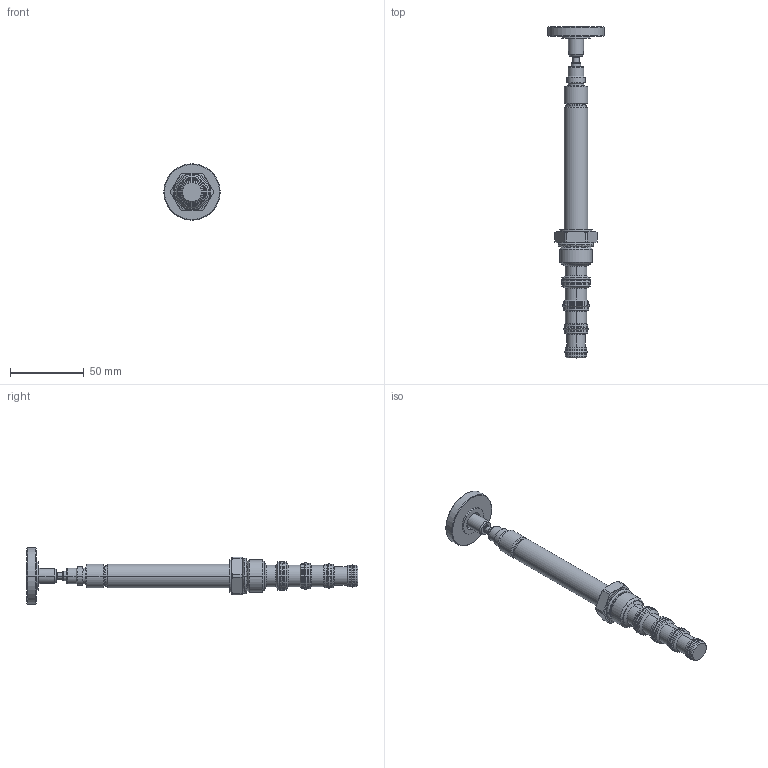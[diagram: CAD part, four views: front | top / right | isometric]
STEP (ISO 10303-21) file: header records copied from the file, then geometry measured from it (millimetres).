
FILE_DESCRIPTION((''),'2;1');
FILE_NAME('5039050_SW0007','2009-02-27T',('JCS'),(''),'PRO/ENGINEER BY PARAMETRIC TECHNOLOGY CORPORATION, 2008010','PRO/ENGINEER BY PARAMETRIC TECHNOLOGY CORPORATION, 2008010','');
FILE_SCHEMA(('CONFIG_CONTROL_DESIGN'));
Length unit declared in the file: inch
Products named in the file (1): 5039050_SW0007
Bounding box: 38.1 x 224.41 x 38.1 mm (x, y, z)
Volume: 50882.3 mm3; surface area: 19138.8 mm2
Topology: 10 solids, 10 shells, 319 faces, 666 edges, 378 vertices
Faces by surface type: cylinder 112, cone 92, revolution 40, plane 39, torus 36
Entity records: 9366 total; most frequent: CARTESIAN_POINT 2375, DIRECTION 1588, ORIENTED_EDGE 1332, AXIS2_PLACEMENT_3D 671, EDGE_CURVE 666, CIRCLE 392, VERTEX_POINT 378, EDGE_LOOP 350
